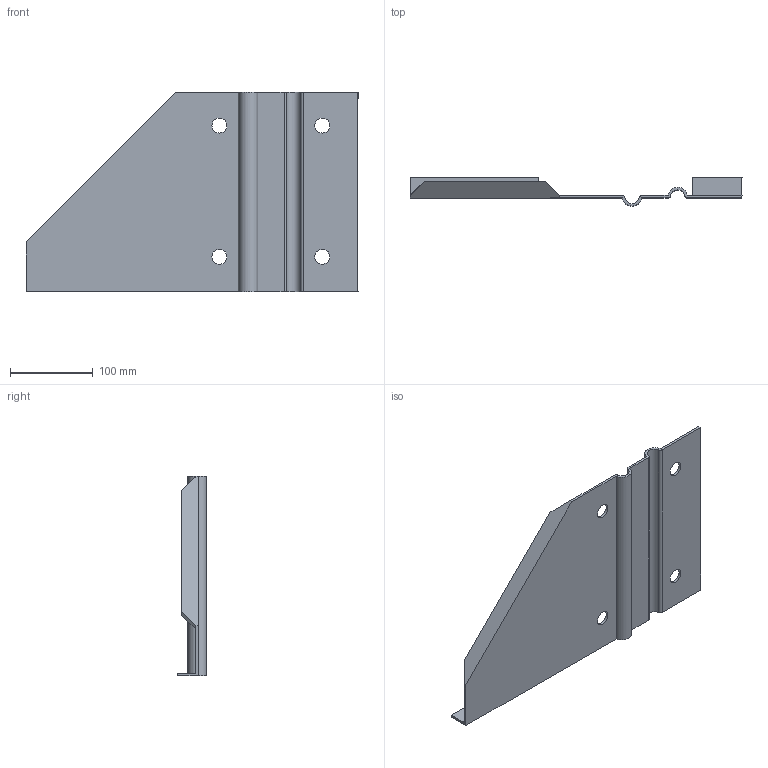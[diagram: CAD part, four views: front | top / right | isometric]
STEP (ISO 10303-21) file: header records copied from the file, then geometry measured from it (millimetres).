
FILE_DESCRIPTION(/* description */ (''),/* implementation_level */ '2;1');
FILE_NAME(/* name */ 'CB220.stp',/* time_stamp */ '2024-11-04T10:15:44+01:00',/* author */ ('woriedl'),/* organization */ (''),/* preprocessor_version */ 'ST-DEVELOPER v20',/* originating_system */ 'AutoCAD Mechanical',/* authorisation */ '');
FILE_SCHEMA (('AUTOMOTIVE_DESIGN { 1 0 10303 214 3 1 1 }'));
Length unit declared in the file: millimetre
Products named in the file (1): Product
Bounding box: 400 x 34.75 x 240 mm (x, y, z)
Volume: 276310.9 mm3; surface area: 188850.4 mm2
Topology: 1 solids, 1 shells, 34 faces, 93 edges, 61 vertices
Faces by surface type: plane 22, cylinder 12
Full cylindrical faces by diameter (mm): 18 x4
Entity records: 1116 total; most frequent: CARTESIAN_POINT 189, DIRECTION 187, ORIENTED_EDGE 186, EDGE_CURVE 93, LINE 69, VECTOR 69, VERTEX_POINT 61, AXIS2_PLACEMENT_3D 59
